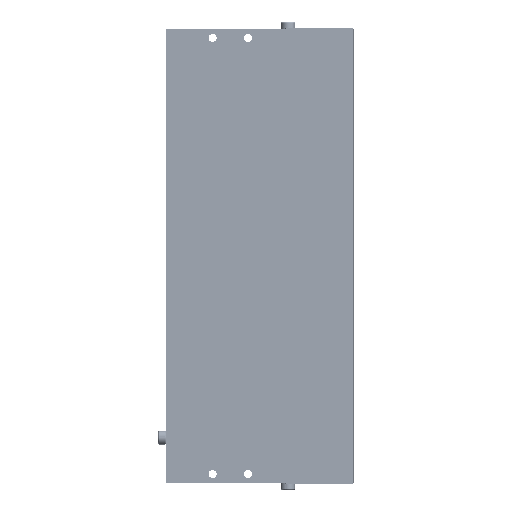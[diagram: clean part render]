
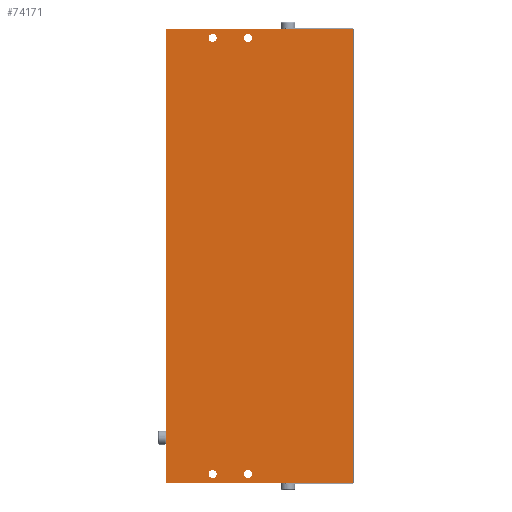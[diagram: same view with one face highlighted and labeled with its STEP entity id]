
A CAD part, front view. The second image highlights one B-rep face of the part: STEP entity #74171.
In plain terms, the highlighted planar face has unit normal (0, -1, 0).
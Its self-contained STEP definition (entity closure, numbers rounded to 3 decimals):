
#48606=DIRECTION('',(1.,0.,0.));
#48607=VECTOR('',#48606,105.);
#48608=CARTESIAN_POINT('',(-52.5,-16.9,256.));
#48609=LINE('',#48608,#48607);
#51474=DIRECTION('',(-1.,0.,0.));
#51475=VECTOR('',#51474,105.);
#51476=CARTESIAN_POINT('',(52.5,-16.9,0.));
#51477=LINE('',#51476,#51475);
#51670=DIRECTION('',(0.,0.,-1.));
#51671=VECTOR('',#51670,256.);
#51672=CARTESIAN_POINT('',(52.5,-16.9,256.));
#51673=LINE('',#51672,#51671);
#51674=CARTESIAN_POINT('',(-26.5,-16.9,251.));
#51675=DIRECTION('',(0.,1.,0.));
#51676=DIRECTION('',(0.,0.,1.));
#51677=AXIS2_PLACEMENT_3D('',#51674,#51675,#51676);
#51679=CARTESIAN_POINT('',(-26.5,-16.9,251.));
#51680=DIRECTION('',(0.,1.,0.));
#51681=DIRECTION('',(0.,0.,-1.));
#51682=AXIS2_PLACEMENT_3D('',#51679,#51680,#51681);
#51684=CARTESIAN_POINT('',(-6.5,-16.9,5.));
#51685=DIRECTION('',(0.,1.,0.));
#51686=DIRECTION('',(0.,0.,-1.));
#51687=AXIS2_PLACEMENT_3D('',#51684,#51685,#51686);
#51689=CARTESIAN_POINT('',(-6.5,-16.9,5.));
#51690=DIRECTION('',(0.,1.,0.));
#51691=DIRECTION('',(0.,0.,1.));
#51692=AXIS2_PLACEMENT_3D('',#51689,#51690,#51691);
#51694=CARTESIAN_POINT('',(-26.5,-16.9,5.));
#51695=DIRECTION('',(0.,1.,0.));
#51696=DIRECTION('',(0.,0.,-1.));
#51697=AXIS2_PLACEMENT_3D('',#51694,#51695,#51696);
#51699=CARTESIAN_POINT('',(-26.5,-16.9,5.));
#51700=DIRECTION('',(0.,1.,0.));
#51701=DIRECTION('',(0.,0.,1.));
#51702=AXIS2_PLACEMENT_3D('',#51699,#51700,#51701);
#51704=CARTESIAN_POINT('',(-6.5,-16.9,251.));
#51705=DIRECTION('',(0.,1.,0.));
#51706=DIRECTION('',(0.,0.,1.));
#51707=AXIS2_PLACEMENT_3D('',#51704,#51705,#51706);
#51709=CARTESIAN_POINT('',(-6.5,-16.9,251.));
#51710=DIRECTION('',(0.,1.,0.));
#51711=DIRECTION('',(0.,0.,-1.));
#51712=AXIS2_PLACEMENT_3D('',#51709,#51710,#51711);
#51718=DIRECTION('',(0.,0.,1.));
#51719=VECTOR('',#51718,256.);
#51720=CARTESIAN_POINT('',(-52.5,-16.9,0.));
#51721=LINE('',#51720,#51719);
#67841=CARTESIAN_POINT('',(-6.5,-16.9,248.75));
#67842=CARTESIAN_POINT('',(-6.5,-16.9,253.25));
#67843=VERTEX_POINT('',#67841);
#67844=VERTEX_POINT('',#67842);
#69165=CARTESIAN_POINT('',(-52.5,-16.9,256.));
#69167=VERTEX_POINT('',#69165);
#69621=CARTESIAN_POINT('',(-26.5,-16.9,7.25));
#69622=VERTEX_POINT('',#69621);
#69963=CARTESIAN_POINT('',(52.5,-16.9,0.));
#69965=VERTEX_POINT('',#69963);
#70308=CARTESIAN_POINT('',(52.5,-16.9,256.));
#70310=VERTEX_POINT('',#70308);
#70344=CARTESIAN_POINT('',(-6.5,-16.9,2.75));
#70346=VERTEX_POINT('',#70344);
#70661=CARTESIAN_POINT('',(-52.5,-16.9,0.));
#70662=VERTEX_POINT('',#70661);
#70804=CARTESIAN_POINT('',(-26.5,-16.9,248.75));
#70805=VERTEX_POINT('',#70804);
#70974=CARTESIAN_POINT('',(-26.5,-16.9,2.75));
#70975=VERTEX_POINT('',#70974);
#71441=CARTESIAN_POINT('',(-26.5,-16.9,253.25));
#71442=VERTEX_POINT('',#71441);
#71711=CARTESIAN_POINT('',(-6.5,-16.9,7.25));
#71712=VERTEX_POINT('',#71711);
#74135=CARTESIAN_POINT('',(-53.,-16.9,0.));
#74136=DIRECTION('',(0.,-1.,0.));
#74137=DIRECTION('',(0.,0.,-1.));
#74138=AXIS2_PLACEMENT_3D('',#74135,#74136,#74137);
#74139=PLANE('',#74138);
#74141=ORIENTED_EDGE('',*,*,#74140,.T.);
#74142=ORIENTED_EDGE('',*,*,#72271,.T.);
#74143=ORIENTED_EDGE('',*,*,#74130,.T.);
#74144=ORIENTED_EDGE('',*,*,#74001,.T.);
#74145=EDGE_LOOP('',(#74141,#74142,#74143,#74144));
#74146=FACE_OUTER_BOUND('',#74145,.F.);
#74148=ORIENTED_EDGE('',*,*,#74147,.F.);
#74150=ORIENTED_EDGE('',*,*,#74149,.F.);
#74151=EDGE_LOOP('',(#74148,#74150));
#74152=FACE_BOUND('',#74151,.F.);
#74154=ORIENTED_EDGE('',*,*,#74153,.F.);
#74156=ORIENTED_EDGE('',*,*,#74155,.F.);
#74157=EDGE_LOOP('',(#74154,#74156));
#74158=FACE_BOUND('',#74157,.F.);
#74160=ORIENTED_EDGE('',*,*,#74159,.F.);
#74162=ORIENTED_EDGE('',*,*,#74161,.F.);
#74163=EDGE_LOOP('',(#74160,#74162));
#74164=FACE_BOUND('',#74163,.F.);
#74166=ORIENTED_EDGE('',*,*,#74165,.F.);
#74168=ORIENTED_EDGE('',*,*,#74167,.F.);
#74169=EDGE_LOOP('',(#74166,#74168));
#74170=FACE_BOUND('',#74169,.F.);
#74171=ADVANCED_FACE('',(#74146,#74152,#74158,#74164,#74170),#74139,.T.);
#51678=CIRCLE('',#51677,2.25);
#51683=CIRCLE('',#51682,2.25);
#51688=CIRCLE('',#51687,2.25);
#51693=CIRCLE('',#51692,2.25);
#51698=CIRCLE('',#51697,2.25);
#51703=CIRCLE('',#51702,2.25);
#51708=CIRCLE('',#51707,2.25);
#51713=CIRCLE('',#51712,2.25);
#72271=EDGE_CURVE('',#69167,#70310,#48609,.T.);
#74001=EDGE_CURVE('',#69965,#70662,#51477,.T.);
#74130=EDGE_CURVE('',#70310,#69965,#51673,.T.);
#74140=EDGE_CURVE('',#70662,#69167,#51721,.T.);
#74147=EDGE_CURVE('',#71442,#70805,#51678,.T.);
#74149=EDGE_CURVE('',#70805,#71442,#51683,.T.);
#74153=EDGE_CURVE('',#70346,#71712,#51688,.T.);
#74155=EDGE_CURVE('',#71712,#70346,#51693,.T.);
#74159=EDGE_CURVE('',#70975,#69622,#51698,.T.);
#74161=EDGE_CURVE('',#69622,#70975,#51703,.T.);
#74165=EDGE_CURVE('',#67844,#67843,#51708,.T.);
#74167=EDGE_CURVE('',#67843,#67844,#51713,.T.);
